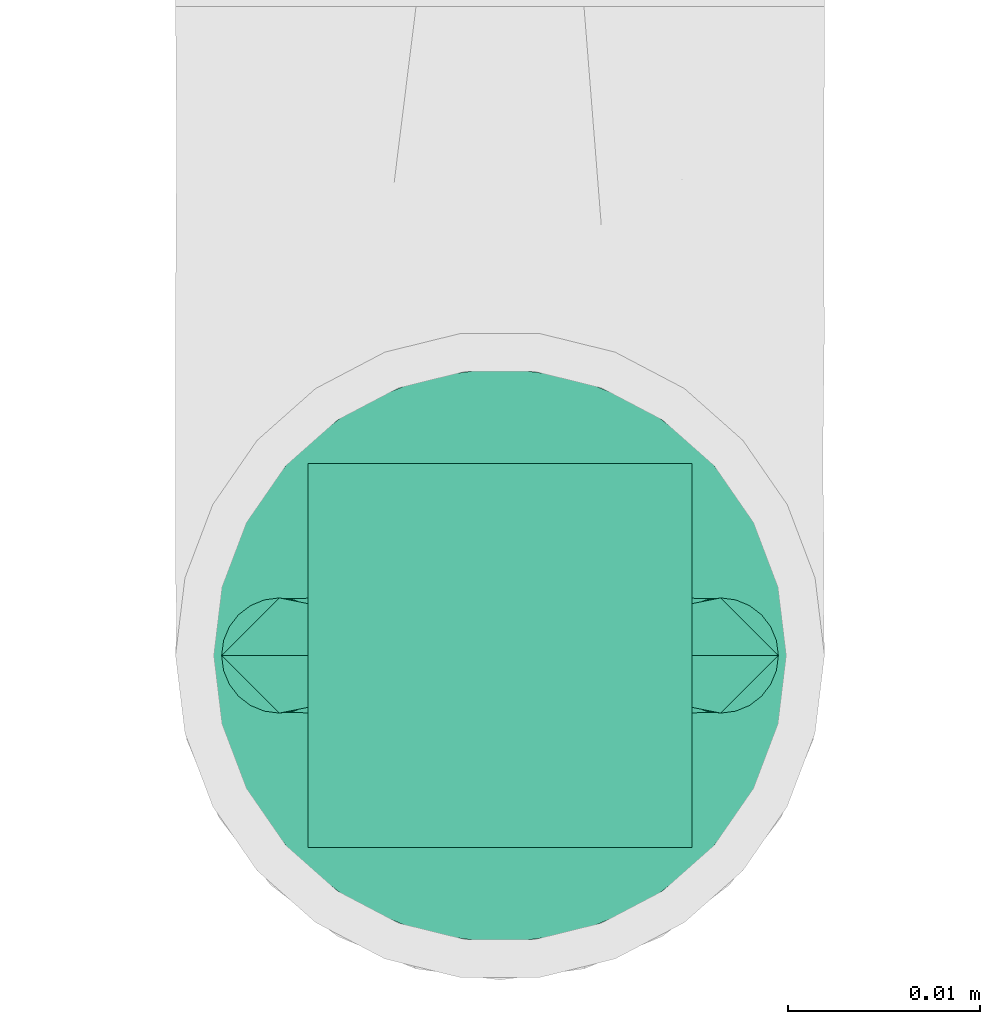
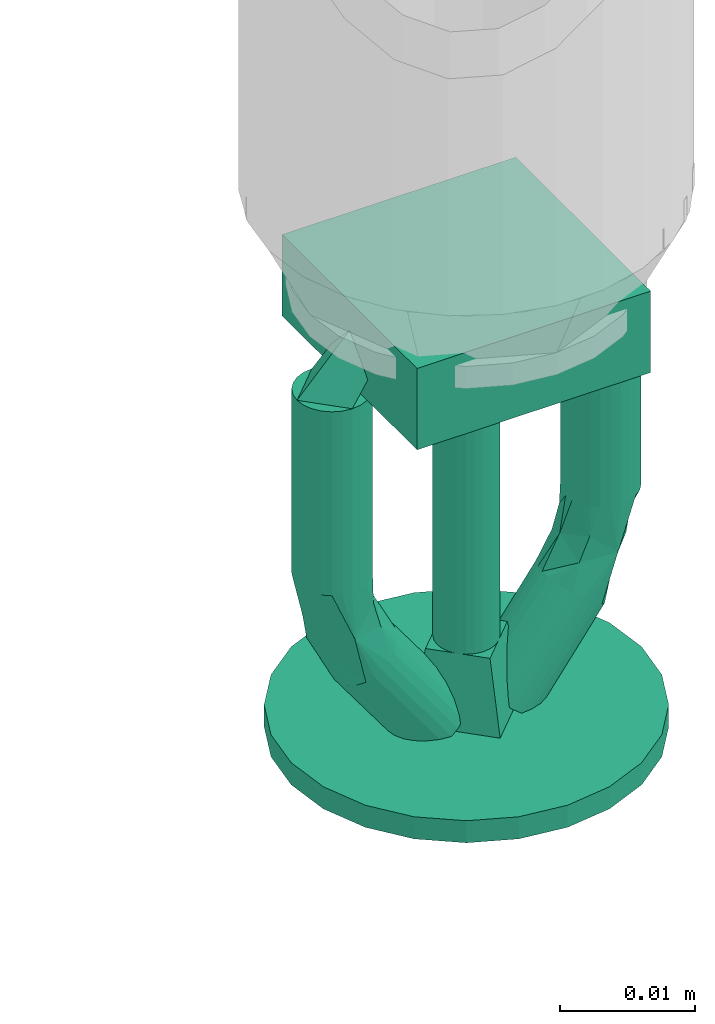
# One storey, part 16 of 43: 1 flow terminal.
"""IFC2X3 building model written with IfcOpenShell, lengths in millimetres."""

from ifc_helpers import new_model, entity, si_unit, converted_unit, derived_unit, direction, frame, origin_with_axes, place, context, subcontext, project, spatial, open_shell, surface_model, source, transform, mapped, type_object, element, save


model = new_model("IFC2X3")

# Units and contexts
model_context = context("Model", 3, precision=0.01, world=frame((0.0, 4.29681676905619e-09, 0.0)), true_north=direction((4.01073788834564e-13, 1.0)))
plan_context = context("Plan", 3, precision=0.01, world=frame((0.0, 4.29681676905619e-09, 0.0)), true_north=direction((4.01073788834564e-13, 1.0)))
body_context = subcontext(model_context, "Body", "Model", "MODEL_VIEW")
ifc_project = project(units=[converted_unit("PLANEANGLEUNIT", "DEGREE", entity("IfcPositiveLengthMeasure", 0.0174532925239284), si_unit("PLANEANGLEUNIT", "RADIAN"), dimensions=[0, 0, 0, 0, 0, 0, 0]), si_unit("AREAUNIT", "SQUARE_METRE"), si_unit("LENGTHUNIT", "METRE", prefix="MILLI"), si_unit("MASSUNIT", "GRAM", prefix="KILO"), si_unit("POWERUNIT", "WATT"), si_unit("PRESSUREUNIT", "PASCAL"), si_unit("FORCEUNIT", "NEWTON", prefix="KILO"), si_unit("ELECTRICVOLTAGEUNIT", "VOLT"), si_unit("ELECTRICCURRENTUNIT", "AMPERE"), si_unit("THERMODYNAMICTEMPERATUREUNIT", "DEGREE_CELSIUS"), si_unit("TIMEUNIT", "SECOND"), si_unit("VOLUMEUNIT", "CUBIC_METRE"), derived_unit("LINEARVELOCITYUNIT", [(si_unit("LENGTHUNIT", "METRE"), 1), (si_unit("TIMEUNIT", "SECOND"), -1)]), derived_unit("VOLUMETRICFLOWRATEUNIT", [(si_unit("VOLUMEUNIT", "CUBIC_METRE"), 1), (si_unit("TIMEUNIT", "SECOND"), -1)]), derived_unit("THERMALTRANSMITTANCEUNIT", [(si_unit("POWERUNIT", "WATT"), 1), (si_unit("THERMODYNAMICTEMPERATUREUNIT", "KELVIN"), -1), (si_unit("AREAUNIT", "SQUARE_METRE"), -1)]), derived_unit("SOUNDPRESSUREUNIT", [(si_unit("PRESSUREUNIT", "PASCAL"), 1)])], contexts=[model_context, plan_context])

# Site, building, storey
site_placement = place(None, frame((0.0, -4.29681676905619e-09, 0.0), z_axis=(0.0, 0.0, 1.0), x_axis=(1.0, 0.0, 0.0)))
site = spatial("IfcSite", under=ifc_project, at=site_placement, CompositionType="ELEMENT")
building_placement = place(site_placement, frame((0.0, 4.29681676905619e-09, 0.0), z_axis=(0.0, 0.0, 1.0), x_axis=(1.0, 0.0, 0.0)))
building = spatial("IfcBuilding", under=site, at=building_placement, Name="mc-building", CompositionType="ELEMENT")
storey_placement = place(building_placement, frame((0.0, 0.0, 210900.0), z_axis=(0.0, 0.0, 1.0), x_axis=(1.0, 0.0, 0.0)))
storey = spatial("IfcBuildingStorey", under=building, at=storey_placement, Name="Nivå F", CompositionType="ELEMENT", Elevation=210900.0)

# Flow terminal
fire_suppression_terminal_type = type_object("IfcFireSuppressionTerminalType", Name="BLP-K115-141C-STD", PredefinedType="NOTDEFINED")
shared_shape = source(origin_with_axes(), body_context, "Body", "SurfaceModel", [
    surface_model("IfcShellBasedSurfaceModel", [(10.0, 10.0, 7.36842), (-10.0, 10.0, 7.36842), (-10.0, -10.0, 7.36842), (10.0, -10.0, 7.36842), (10.0, -10.0, 0.0), (-10.0, -10.0, 0.0), (-10.0, 10.0, 0.0), (10.0, 10.0, 0.0), (3.88229, -14.48889, 42.0), (-3.88229, -14.48889, 42.0), (0.0, -15.0, 42.0), (14.48889, -3.88229, 42.0), (7.5, -12.99038, 42.0), (12.99038, -7.5, 42.0), (10.6066, -10.6066, 42.0), (-10.6066, -10.6066, 42.0), (-7.5, -12.99038, 42.0), (-14.48889, -3.88229, 42.0), (-12.99038, -7.5, 42.0), (-12.99038, 7.5, 42.0), (-15.0, 0.0, 42.0), (14.48889, 3.88229, 42.0), (3.88229, 14.48889, 42.0), (12.99038, 7.5, 42.0), (10.6066, 10.6066, 42.0), (7.5, 12.99038, 42.0), (-7.5, 12.99038, 42.0), (-10.6066, 10.6066, 42.0), (-14.48889, 3.88229, 42.0), (0.0, 15.0, 42.0), (-3.88229, 14.48889, 42.0), (15.0, 0.0, 42.0), (10.6066, 10.6066, 40.0), (0.0, 15.0, 40.0), (3.88229, 14.48889, 40.0), (7.5, 12.99038, 40.0), (12.99038, 7.5, 40.0), (14.48889, 3.88229, 40.0), (-15.0, 0.0, 40.0), (-7.5, 12.99038, 40.0), (-12.99038, 7.5, 40.0), (-10.6066, 10.6066, 40.0), (-3.88229, 14.48889, 40.0), (-14.48889, 3.88229, 40.0), (15.0, 0.0, 40.0), (14.48889, -3.88229, 40.0), (-3.88229, -14.48889, 40.0), (3.88229, -14.48889, 40.0), (12.99038, -7.5, 40.0), (7.5, -12.99038, 40.0), (10.6066, -10.6066, 40.0), (-14.48889, -3.88229, 40.0), (-10.6066, -10.6066, 40.0), (-12.99038, -7.5, 40.0), (-7.5, -12.99038, 40.0), (0.0, -15.0, 40.0), (0.0, -2.5, 33.68421), (0.64705, -2.41481, 33.68421), (1.25, -2.16506, 33.68421), (-1.25, -2.16506, 33.68421), (2.16506, -1.25, 33.68421), (1.76777, -1.76777, 33.68421), (-1.25, 2.16506, 33.68421), (-2.16506, -1.25, 33.68421), (-1.76777, -1.76777, 33.68421), (-0.64705, -2.41481, 33.68421), (-2.41481, -0.64705, 33.68421), (-2.5, 0.0, 33.68421), (-2.41481, 0.64705, 33.68421), (2.41481, -0.64705, 33.68421), (1.25, 2.16506, 33.68421), (2.5, 0.0, 33.68421), (2.41481, 0.64705, 33.68421), (1.76777, 1.76777, 33.68421), (2.16506, 1.25, 33.68421), (0.64705, 2.41481, 33.68421), (-1.76777, 1.76777, 33.68421), (-2.16506, 1.25, 33.68421), (0.0, 2.5, 33.68421), (-0.64705, 2.41481, 33.68421), (0.0, 2.5, 7.36842), (0.64705, 2.41481, 7.36842), (1.25, 2.16506, 7.36842), (-1.25, 2.16506, 7.36842), (1.76777, 1.76777, 7.36842), (2.16506, 1.25, 7.36842), (2.41481, 0.64705, 7.36842), (-2.41481, 0.64705, 7.36842), (-1.76777, 1.76777, 7.36842), (-0.64705, 2.41481, 7.36842), (-2.16506, 1.25, 7.36842), (-2.5, 0.0, 7.36842), (2.5, 0.0, 7.36842), (2.41481, -0.64705, 7.36842), (2.16506, -1.25, 7.36842), (-1.25, -2.16506, 7.36842), (1.25, -2.16506, 7.36842), (1.76777, -1.76777, 7.36842), (0.0, -2.5, 7.36842), (0.64705, -2.41481, 7.36842), (-2.16506, -1.25, 7.36842), (-1.76777, -1.76777, 7.36842), (-2.41481, -0.64705, 7.36842), (-0.64705, -2.41481, 7.36842), (0.0, -5.0, 40.0), (5.0, 0.0, 40.0), (-5.0, 0.0, 40.0), (0.0, 5.0, 40.0), (3.5, 0.0, 33.68421), (0.0, -3.5, 33.68421), (0.0, 3.5, 33.68421), (-3.5, 0.0, 33.68421), (13.0, -2.59808, 7.36842), (12.27646, -2.89778, 7.36842), (11.5, -3.0, 7.36842), (10.72354, -2.89778, 7.36842), (14.09808, -1.5, 7.36842), (13.62132, -2.12132, 7.36842), (14.39778, -0.77646, 7.36842), (10.0, -2.59808, 7.36842), (9.37868, -2.12132, 7.36842), (8.60222, -0.77646, 7.36842), (8.90192, -1.5, 7.36842), (8.5, 0.0, 7.36842), (8.60222, 0.77646, 7.36842), (14.5, 0.0, 7.36842), (14.09808, 1.5, 7.36842), (14.39778, 0.77646, 7.36842), (13.0, 2.59808, 7.36842), (13.62132, 2.12132, 7.36842), (12.27646, 2.89778, 7.36842), (8.90192, 1.5, 7.36842), (9.37868, 2.12132, 7.36842), (10.0, 2.59808, 7.36842), (10.72354, 2.89778, 7.36842), (11.5, 3.0, 7.36842), (8.60222, 0.77646, 21.40351), (8.5, 0.0, 21.40351), (8.90192, 1.5, 21.40351), (9.37868, 2.12132, 21.40351), (10.0, 2.59808, 21.40351), (10.72354, 2.89778, 21.40351), (11.5, 3.0, 21.40351), (13.0, 2.59808, 21.40351), (12.27646, 2.89778, 21.40351), (13.62132, 2.12132, 21.40351), (14.09808, 1.5, 21.40351), (14.39778, 0.77646, 21.40351), (14.5, 0.0, 21.40351), (14.39778, -0.77646, 21.40351), (14.09808, -1.5, 21.40351), (13.62132, -2.12132, 21.40351), (13.0, -2.59808, 21.40351), (12.27646, -2.89778, 21.40351), (11.5, -3.0, 21.40351), (10.0, -2.59808, 21.40351), (10.72354, -2.89778, 21.40351), (9.37868, -2.12132, 21.40351), (8.90192, -1.5, 21.40351), (8.60222, -0.77646, 21.40351), (8.60222, 0.77646, 24.01797), (8.5, 0.0, 24.01797), (8.90192, 1.5, 24.01797), (9.37868, 2.12132, 24.01797), (10.0, 2.59808, 24.01797), (10.72354, 2.89778, 24.01797), (11.5, 3.0, 24.01797), (13.0, 2.59808, 24.01797), (12.27646, 2.89778, 24.01797), (13.62132, 2.12132, 24.01797), (14.09808, 1.5, 24.01797), (14.39778, 0.77646, 24.01797), (14.5, 0.0, 24.01797), (14.39778, -0.77646, 24.01797), (14.09808, -1.5, 24.01797), (13.62132, -2.12132, 24.01797), (13.0, -2.59808, 24.01797), (12.27646, -2.89778, 24.01797), (11.5, -3.0, 24.01797), (10.0, -2.59808, 24.01797), (10.72354, -2.89778, 24.01797), (9.37868, -2.12132, 24.01797), (8.90192, -1.5, 24.01797), (8.60222, -0.77646, 24.01797), (14.03116, 0.0, 26.95469), (8.89443, 3.0, 31.97044), (11.26864, 2.96638, 28.30794), (8.26852, 2.89778, 31.51096), (13.68288, 0.0, 29.13626), (9.23197, 2.26965, 26.65145), (7.98113, 0.0, 27.26812), (8.39468, 2.17743, 28.77318), (6.47609, 0.0, 30.19515), (6.55849, 0.77646, 30.25565), (6.80009, 1.5, 30.433), (7.1844, 2.12132, 30.71512), (11.23037, 0.77646, 33.68523), (11.31277, 0.0, 33.74572), (12.67267, 0.0, 31.10095), (7.68526, 2.59808, 31.0828), (9.52034, 2.89778, 32.42991), (10.1036, 2.59808, 32.85808), (10.60445, 2.12132, 33.22575), (10.98877, 1.5, 33.50787), (11.26864, -2.96638, 28.30794), (9.20533, -2.17689, 26.29582), (8.63781, -2.27879, 28.50134), (10.1036, -2.59808, 32.85808), (9.52034, -2.89778, 32.42991), (8.89443, -3.0, 31.97044), (10.98877, -1.5, 33.50787), (10.60445, -2.12132, 33.22575), (11.23037, -0.77646, 33.68523), (6.55849, -0.77646, 30.25565), (8.26852, -2.89778, 31.51096), (7.68526, -2.59808, 31.0828), (7.1844, -2.12132, 30.71512), (6.80009, -1.5, 30.433), (3.0, -3.0, 40.0), (3.62591, -2.89778, 40.45948), (4.20917, -2.59808, 40.88764), (5.09434, -1.5, 41.53744), (1.28997, -2.12132, 38.74469), (4.71003, -2.12132, 41.25532), (1.79083, 2.59808, 39.11236), (0.90566, -1.5, 38.46256), (1.79083, -2.59808, 39.11236), (2.37409, -2.89778, 39.54052), (0.58166, 0.0, 38.22472), (0.66406, -0.77646, 38.28521), (1.28997, 2.12132, 38.74469), (5.33594, -0.77646, 41.71479), (4.71003, 2.12132, 41.25532), (5.33594, 0.77646, 41.71479), (5.09434, 1.5, 41.53744), (4.20917, 2.59808, 40.88764), (3.62591, 2.89778, 40.45948), (3.0, 3.0, 40.0), (0.66406, 0.77646, 38.28521), (0.90566, 1.5, 38.46256), (2.37409, 2.89778, 39.54052), (5.41834, 0.0, 41.77528), (-10.0, -2.59808, 7.36842), (-10.72354, -2.89778, 7.36842), (-11.5, -3.0, 7.36842), (-12.27646, -2.89778, 7.36842), (-8.60222, -0.77646, 7.36842), (-8.90192, -1.5, 7.36842), (-9.37868, -2.12132, 7.36842), (-13.0, -2.59808, 7.36842), (-13.62132, -2.12132, 7.36842), (-14.39778, -0.77646, 7.36842), (-14.09808, -1.5, 7.36842), (-14.5, 0.0, 7.36842), (-10.0, 2.59808, 7.36842), (-8.90192, 1.5, 7.36842), (-8.60222, 0.77646, 7.36842), (-14.39778, 0.77646, 7.36842), (-9.37868, 2.12132, 7.36842), (-10.72354, 2.89778, 7.36842), (-14.09808, 1.5, 7.36842), (-13.62132, 2.12132, 7.36842), (-13.0, 2.59808, 7.36842), (-12.27646, 2.89778, 7.36842), (-11.5, 3.0, 7.36842), (-8.5, 0.0, 7.36842), (-14.39778, 0.77646, 21.40351), (-14.5, 0.0, 21.40351), (-14.09808, 1.5, 21.40351), (-13.62132, 2.12132, 21.40351), (-13.0, 2.59808, 21.40351), (-12.27646, 2.89778, 21.40351), (-11.5, 3.0, 21.40351), (-10.0, 2.59808, 21.40351), (-10.72354, 2.89778, 21.40351), (-9.37868, 2.12132, 21.40351), (-8.90192, 1.5, 21.40351), (-8.60222, 0.77646, 21.40351), (-8.5, 0.0, 21.40351), (-8.60222, -0.77646, 21.40351), (-8.90192, -1.5, 21.40351), (-9.37868, -2.12132, 21.40351), (-10.0, -2.59808, 21.40351), (-10.72354, -2.89778, 21.40351), (-11.5, -3.0, 21.40351), (-13.0, -2.59808, 21.40351), (-12.27646, -2.89778, 21.40351), (-13.62132, -2.12132, 21.40351), (-14.09808, -1.5, 21.40351), (-14.39778, -0.77646, 21.40351), (-14.39778, 0.77646, 24.01797), (-14.5, 0.0, 24.01797), (-14.09808, 1.5, 24.01797), (-13.62132, 2.12132, 24.01797), (-13.0, 2.59808, 24.01797), (-12.27646, 2.89778, 24.01797), (-11.5, 3.0, 24.01797), (-10.0, 2.59808, 24.01797), (-10.72354, 2.89778, 24.01797), (-9.37868, 2.12132, 24.01797), (-8.90192, 1.5, 24.01797), (-8.60222, 0.77646, 24.01797), (-8.5, 0.0, 24.01797), (-8.60222, -0.77646, 24.01797), (-8.90192, -1.5, 24.01797), (-9.37868, -2.12132, 24.01797), (-10.0, -2.59808, 24.01797), (-10.72354, -2.89778, 24.01797), (-11.5, -3.0, 24.01797), (-13.0, -2.59808, 24.01797), (-12.27646, -2.89778, 24.01797), (-13.62132, -2.12132, 24.01797), (-14.09808, -1.5, 24.01797), (-14.39778, -0.77646, 24.01797), (-14.03116, 0.0, 26.95469), (-11.26864, 2.96638, 28.30794), (-9.20533, 2.17689, 26.29582), (-7.98113, 0.0, 27.26812), (-13.68288, 0.0, 29.13626), (-12.67267, 0.0, 31.10095), (-8.63781, 2.27879, 28.50134), (-10.1036, 2.59808, 32.85808), (-9.52034, 2.89778, 32.42991), (-8.89443, 3.0, 31.97044), (-10.98877, 1.5, 33.50787), (-10.60445, 2.12132, 33.22575), (-11.23037, 0.77646, 33.68523), (-11.31277, 0.0, 33.74572), (-6.55849, 0.77646, 30.25565), (-6.47609, 0.0, 30.19515), (-8.26852, 2.89778, 31.51096), (-7.68526, 2.59808, 31.0828), (-7.1844, 2.12132, 30.71512), (-6.80009, 1.5, 30.433), (-8.89443, -3.0, 31.97044), (-11.26864, -2.96638, 28.30794), (-8.26852, -2.89778, 31.51096), (-9.23197, -2.26965, 26.65145), (-8.39468, -2.17743, 28.77318), (-6.55849, -0.77646, 30.25565), (-6.80009, -1.5, 30.433), (-7.1844, -2.12132, 30.71512), (-11.23037, -0.77646, 33.68523), (-7.68526, -2.59808, 31.0828), (-9.52034, -2.89778, 32.42991), (-10.1036, -2.59808, 32.85808), (-10.60445, -2.12132, 33.22575), (-10.98877, -1.5, 33.50787), (-3.62591, -2.89778, 40.45948), (-3.0, -3.0, 40.0), (-2.37409, -2.89778, 39.54052), (-1.79083, -2.59808, 39.11236), (-1.28997, -2.12132, 38.74469), (-0.90566, -1.5, 38.46256), (-0.66406, -0.77646, 38.28521), (-4.71003, -2.12132, 41.25532), (-4.20917, -2.59808, 40.88764), (-5.09434, -1.5, 41.53744), (-5.41834, 0.0, 41.77528), (-5.33594, -0.77646, 41.71479), (-4.20917, 2.59808, 40.88764), (-5.33594, 0.77646, 41.71479), (-0.58166, 0.0, 38.22472), (-0.66406, 0.77646, 38.28521), (-0.90566, 1.5, 38.46256), (-1.28997, 2.12132, 38.74469), (-1.79083, 2.59808, 39.11236), (-2.37409, 2.89778, 39.54052), (-3.0, 3.0, 40.0), (-4.71003, 2.12132, 41.25532), (-5.09434, 1.5, 41.53744), (-3.62591, 2.89778, 40.45948), (-6.5, 2.0, 1.0), (-4.5, 0.0, 1.0), (-6.5, -2.0, 1.0), (-8.5, 0.0, 1.0), (-7.5, 1.0, 1.0), (-13.0, 1.5, 7.36842), (-10.16667, 1.66667, 7.36842), (-5.5, 1.0, 1.0), (-5.5, -1.0, 1.0), (-10.0, -1.5, 7.36842), (-12.83333, -1.66667, 7.36842), (-7.5, -1.0, 1.0), (4.5, 0.0, 1.0), (6.5, 2.0, 1.0), (8.5, 0.0, 1.0), (6.5, -2.0, 1.0), (5.5, -1.0, 1.0), (12.83333, -1.66667, 7.36842), (10.16667, -1.66667, 7.36842), (7.5, -1.0, 1.0), (7.5, 1.0, 1.0), (10.16667, 1.66667, 7.36842), (12.83333, 1.66667, 7.36842), (5.5, 1.0, 1.0)], [open_shell([[[0, 1, 2]], [[2, 3, 0]], [[4, 5, 6]], [[6, 7, 4]], [[2, 1, 6]], [[6, 5, 2]], [[3, 2, 5]], [[5, 4, 3]], [[0, 3, 4]], [[4, 7, 0]], [[1, 0, 7]], [[7, 6, 1]], [[8, 9, 10]], [[11, 8, 12]], [[13, 11, 12]], [[13, 12, 14]], [[9, 8, 11]], [[9, 15, 16]], [[15, 9, 17]], [[15, 17, 18]], [[9, 11, 17]], [[17, 19, 20]], [[17, 11, 19]], [[19, 11, 21]], [[22, 21, 23]], [[24, 25, 22]], [[24, 22, 23]], [[19, 21, 22]], [[19, 26, 27]], [[28, 20, 19]], [[26, 29, 30]], [[29, 26, 19]], [[22, 29, 19]], [[11, 31, 21]], [[32, 33, 34]], [[32, 34, 35]], [[32, 36, 37]], [[33, 32, 38]], [[38, 32, 37]], [[39, 40, 41]], [[39, 42, 33]], [[40, 38, 43]], [[39, 33, 40]], [[33, 38, 40]], [[37, 44, 38]], [[45, 46, 44]], [[47, 45, 48]], [[49, 47, 48]], [[49, 48, 50]], [[46, 45, 47]], [[51, 52, 53]], [[52, 51, 46]], [[52, 46, 54]], [[51, 44, 46]], [[47, 55, 46]], [[44, 51, 38]], [[51, 17, 38]], [[53, 18, 51]], [[16, 52, 54]], [[53, 52, 15]], [[9, 54, 46]], [[51, 18, 17]], [[17, 20, 38]], [[9, 16, 54]], [[15, 52, 16]], [[15, 18, 53]], [[10, 9, 46]], [[46, 55, 10]], [[47, 8, 55]], [[49, 12, 47]], [[13, 50, 48]], [[49, 50, 14]], [[11, 48, 45]], [[49, 14, 12]], [[12, 8, 47]], [[31, 11, 45]], [[13, 48, 11]], [[13, 14, 50]], [[44, 31, 45]], [[55, 8, 10]], [[37, 21, 44]], [[36, 23, 37]], [[25, 32, 35]], [[36, 32, 24]], [[22, 35, 34]], [[37, 23, 21]], [[21, 31, 44]], [[22, 25, 35]], [[24, 32, 25]], [[24, 23, 36]], [[29, 22, 34]], [[34, 33, 29]], [[42, 30, 33]], [[39, 26, 42]], [[19, 41, 40]], [[39, 41, 27]], [[28, 40, 43]], [[39, 27, 26]], [[26, 30, 42]], [[20, 28, 43]], [[19, 40, 28]], [[19, 27, 41]], [[38, 20, 43]], [[33, 30, 29]], [[56, 57, 58]], [[59, 56, 58]], [[58, 60, 59]], [[60, 58, 61]], [[60, 62, 59]], [[59, 63, 64]], [[59, 65, 56]], [[59, 66, 63]], [[66, 59, 67]], [[59, 68, 67]], [[62, 60, 69]], [[70, 71, 72]], [[73, 72, 74]], [[62, 69, 70]], [[70, 72, 73]], [[62, 70, 75]], [[68, 76, 77]], [[76, 68, 62]], [[62, 78, 79]], [[68, 59, 62]], [[75, 78, 62]], [[70, 69, 71]], [[80, 81, 82]], [[83, 80, 82]], [[84, 85, 86]], [[83, 82, 84]], [[83, 84, 86]], [[83, 87, 88]], [[83, 89, 80]], [[88, 87, 90]], [[87, 83, 91]], [[86, 91, 83]], [[86, 92, 91]], [[92, 93, 94]], [[95, 92, 94]], [[95, 94, 96]], [[96, 94, 97]], [[98, 96, 99]], [[100, 95, 101]], [[95, 100, 102]], [[95, 98, 103]], [[102, 91, 95]], [[96, 98, 95]], [[95, 91, 92]], [[102, 66, 91]], [[100, 63, 102]], [[59, 101, 95]], [[100, 101, 64]], [[65, 95, 103]], [[102, 63, 66]], [[66, 67, 91]], [[65, 59, 95]], [[64, 101, 59]], [[64, 63, 100]], [[56, 65, 103]], [[103, 98, 56]], [[99, 57, 98]], [[96, 58, 99]], [[60, 97, 94]], [[96, 97, 61]], [[69, 94, 93]], [[96, 61, 58]], [[58, 57, 99]], [[71, 69, 93]], [[60, 94, 69]], [[60, 61, 97]], [[92, 71, 93]], [[98, 57, 56]], [[86, 72, 92]], [[85, 74, 86]], [[70, 84, 82]], [[85, 84, 73]], [[75, 82, 81]], [[86, 74, 72]], [[72, 71, 92]], [[75, 70, 82]], [[73, 84, 70]], [[73, 74, 85]], [[78, 75, 81]], [[81, 80, 78]], [[89, 79, 80]], [[83, 62, 89]], [[77, 88, 90]], [[83, 88, 76]], [[68, 90, 87]], [[83, 76, 62]], [[62, 79, 89]], [[67, 68, 87]], [[77, 90, 68]], [[77, 76, 88]], [[91, 67, 87]], [[80, 79, 78]], [[104, 105, 106]], [[107, 106, 105]], [[108, 109, 110]], [[111, 110, 109]], [[106, 111, 104]], [[104, 111, 109]], [[109, 108, 105]], [[109, 105, 104]], [[105, 108, 107]], [[107, 108, 110]], [[110, 111, 106]], [[110, 106, 107]], [[112, 113, 114]], [[112, 114, 115]], [[116, 112, 115]], [[117, 112, 116]], [[118, 116, 119]], [[120, 121, 119]], [[116, 115, 119]], [[122, 121, 120]], [[121, 118, 119]], [[121, 123, 124]], [[125, 118, 121]], [[126, 127, 125]], [[126, 125, 124]], [[124, 128, 126]], [[129, 126, 128]], [[128, 124, 130]], [[131, 132, 124]], [[133, 124, 132]], [[134, 135, 133]], [[124, 133, 135]], [[135, 130, 124]], [[121, 124, 125]], [[136, 123, 137]], [[138, 124, 136]], [[132, 139, 140]], [[138, 139, 131]], [[133, 140, 141]], [[138, 131, 124]], [[124, 123, 136]], [[134, 142, 135]], [[134, 133, 141]], [[132, 140, 133]], [[132, 131, 139]], [[142, 134, 141]], [[143, 130, 144]], [[145, 128, 143]], [[126, 146, 147]], [[145, 146, 129]], [[127, 147, 148]], [[143, 128, 130]], [[130, 135, 144]], [[127, 126, 147]], [[129, 146, 126]], [[129, 128, 145]], [[125, 127, 148]], [[144, 135, 142]], [[149, 125, 148]], [[150, 118, 149]], [[117, 151, 152]], [[150, 151, 116]], [[112, 152, 153]], [[150, 116, 118]], [[118, 125, 149]], [[113, 154, 114]], [[113, 112, 153]], [[117, 152, 112]], [[117, 116, 151]], [[154, 113, 153]], [[155, 115, 156]], [[157, 119, 155]], [[122, 158, 159]], [[157, 158, 120]], [[121, 159, 137]], [[155, 119, 115]], [[115, 114, 156]], [[121, 122, 159]], [[120, 158, 122]], [[120, 119, 157]], [[123, 121, 137]], [[156, 114, 154]], [[160, 137, 161]], [[162, 136, 160]], [[139, 163, 164]], [[162, 163, 138]], [[140, 164, 165]], [[162, 138, 136]], [[136, 137, 160]], [[141, 166, 142]], [[141, 140, 165]], [[139, 164, 140]], [[139, 138, 163]], [[166, 141, 165]], [[167, 144, 168]], [[169, 143, 167]], [[146, 170, 171]], [[169, 170, 145]], [[147, 171, 172]], [[167, 143, 144]], [[144, 142, 168]], [[147, 146, 171]], [[145, 170, 146]], [[145, 143, 169]], [[148, 147, 172]], [[168, 142, 166]], [[173, 148, 172]], [[174, 149, 173]], [[151, 175, 176]], [[174, 175, 150]], [[152, 176, 177]], [[174, 150, 149]], [[149, 148, 173]], [[153, 178, 154]], [[153, 152, 177]], [[151, 176, 152]], [[151, 150, 175]], [[178, 153, 177]], [[179, 156, 180]], [[181, 155, 179]], [[158, 182, 183]], [[181, 182, 157]], [[159, 183, 161]], [[179, 155, 156]], [[156, 154, 180]], [[159, 158, 183]], [[157, 182, 158]], [[157, 155, 181]], [[137, 159, 161]], [[180, 154, 178]], [[170, 184, 171]], [[185, 186, 187]], [[188, 184, 186]], [[165, 186, 166]], [[189, 160, 190]], [[163, 162, 189]], [[190, 191, 189]], [[160, 189, 162]], [[189, 186, 165]], [[164, 163, 189]], [[184, 172, 171]], [[170, 169, 184]], [[184, 167, 186]], [[184, 169, 167]], [[168, 186, 167]], [[166, 186, 168]], [[160, 161, 190]], [[192, 193, 191]], [[193, 194, 191]], [[195, 191, 194]], [[191, 190, 192]], [[191, 187, 186]], [[196, 197, 198]], [[191, 199, 187]], [[200, 186, 185]], [[189, 165, 164]], [[191, 195, 199]], [[201, 202, 198]], [[200, 201, 186]], [[198, 203, 196]], [[198, 188, 186]], [[198, 202, 203]], [[201, 198, 186]], [[189, 191, 186]], [[174, 184, 175]], [[176, 175, 184]], [[204, 176, 184]], [[178, 177, 204]], [[204, 177, 176]], [[173, 184, 174]], [[205, 190, 161]], [[188, 198, 204]], [[205, 204, 206]], [[205, 179, 180]], [[205, 181, 179]], [[182, 205, 183]], [[161, 183, 205]], [[181, 205, 182]], [[180, 204, 205]], [[173, 172, 184]], [[188, 204, 184]], [[204, 198, 207]], [[207, 208, 204]], [[190, 205, 206]], [[208, 209, 204]], [[198, 210, 211]], [[198, 211, 207]], [[212, 198, 197]], [[213, 192, 190]], [[213, 190, 206]], [[210, 198, 212]], [[214, 204, 209]], [[214, 215, 206]], [[206, 216, 217]], [[206, 204, 214]], [[216, 206, 215]], [[213, 206, 217]], [[178, 204, 180]], [[218, 219, 220]], [[218, 220, 221]], [[218, 221, 222]], [[221, 220, 223]], [[221, 224, 225]], [[218, 226, 227]], [[218, 222, 226]], [[225, 228, 229]], [[222, 221, 225]], [[225, 230, 228]], [[221, 231, 232]], [[231, 233, 232]], [[232, 233, 234]], [[232, 235, 236]], [[232, 224, 221]], [[237, 232, 236]], [[238, 230, 239]], [[238, 228, 230]], [[232, 240, 224]], [[225, 224, 230]], [[237, 240, 232]], [[241, 233, 231]], [[238, 192, 228]], [[239, 193, 238]], [[195, 230, 224]], [[239, 230, 194]], [[199, 224, 240]], [[239, 194, 193]], [[193, 192, 238]], [[187, 237, 185]], [[187, 199, 240]], [[195, 224, 199]], [[195, 194, 230]], [[237, 187, 240]], [[235, 200, 236]], [[232, 201, 235]], [[203, 234, 233]], [[232, 234, 202]], [[196, 233, 241]], [[235, 201, 200]], [[200, 185, 236]], [[196, 203, 233]], [[202, 234, 203]], [[202, 201, 232]], [[197, 196, 241]], [[236, 185, 237]], [[231, 197, 241]], [[221, 212, 231]], [[211, 223, 220]], [[221, 223, 210]], [[207, 220, 219]], [[221, 210, 212]], [[212, 197, 231]], [[208, 218, 209]], [[208, 207, 219]], [[211, 220, 207]], [[211, 210, 223]], [[218, 208, 219]], [[226, 214, 227]], [[222, 215, 226]], [[217, 225, 229]], [[222, 225, 216]], [[213, 229, 228]], [[226, 215, 214]], [[214, 209, 227]], [[213, 217, 229]], [[216, 225, 217]], [[216, 215, 222]], [[192, 213, 228]], [[227, 209, 218]], [[242, 243, 244]], [[242, 244, 245]], [[246, 247, 248]], [[242, 246, 248]], [[246, 242, 249]], [[250, 251, 249]], [[242, 245, 249]], [[252, 251, 250]], [[249, 251, 246]], [[253, 254, 251]], [[254, 246, 251]], [[246, 255, 256]], [[246, 254, 255]], [[257, 254, 253]], [[258, 255, 254]], [[259, 254, 257]], [[260, 261, 257]], [[262, 257, 261]], [[263, 264, 262]], [[257, 262, 264]], [[264, 259, 257]], [[256, 265, 246]], [[266, 253, 267]], [[268, 257, 266]], [[261, 269, 270]], [[268, 269, 260]], [[262, 270, 271]], [[268, 260, 257]], [[257, 253, 266]], [[263, 272, 264]], [[263, 262, 271]], [[261, 270, 262]], [[261, 260, 269]], [[272, 263, 271]], [[273, 259, 274]], [[275, 254, 273]], [[255, 276, 277]], [[275, 276, 258]], [[256, 277, 278]], [[273, 254, 259]], [[259, 264, 274]], [[256, 255, 277]], [[258, 276, 255]], [[258, 254, 275]], [[265, 256, 278]], [[274, 264, 272]], [[279, 265, 278]], [[280, 246, 279]], [[248, 281, 282]], [[280, 281, 247]], [[242, 282, 283]], [[280, 247, 246]], [[246, 265, 279]], [[243, 284, 244]], [[243, 242, 283]], [[248, 282, 242]], [[248, 247, 281]], [[284, 243, 283]], [[285, 245, 286]], [[287, 249, 285]], [[252, 288, 289]], [[287, 288, 250]], [[251, 289, 267]], [[285, 249, 245]], [[245, 244, 286]], [[251, 252, 289]], [[250, 288, 252]], [[250, 249, 287]], [[253, 251, 267]], [[286, 244, 284]], [[290, 267, 291]], [[292, 266, 290]], [[269, 293, 294]], [[292, 293, 268]], [[270, 294, 295]], [[292, 268, 266]], [[266, 267, 290]], [[271, 296, 272]], [[271, 270, 295]], [[269, 294, 270]], [[269, 268, 293]], [[296, 271, 295]], [[297, 274, 298]], [[299, 273, 297]], [[276, 300, 301]], [[299, 300, 275]], [[277, 301, 302]], [[297, 273, 274]], [[274, 272, 298]], [[277, 276, 301]], [[275, 300, 276]], [[275, 273, 299]], [[278, 277, 302]], [[298, 272, 296]], [[303, 278, 302]], [[304, 279, 303]], [[281, 305, 306]], [[304, 305, 280]], [[282, 306, 307]], [[304, 280, 279]], [[279, 278, 303]], [[283, 308, 284]], [[283, 282, 307]], [[281, 306, 282]], [[281, 280, 305]], [[308, 283, 307]], [[309, 286, 310]], [[311, 285, 309]], [[288, 312, 313]], [[311, 312, 287]], [[289, 313, 291]], [[309, 285, 286]], [[286, 284, 310]], [[289, 288, 313]], [[287, 312, 288]], [[287, 285, 311]], [[267, 289, 291]], [[310, 284, 308]], [[292, 314, 293]], [[294, 293, 314]], [[315, 294, 314]], [[296, 295, 315]], [[315, 295, 294]], [[290, 314, 292]], [[316, 317, 302]], [[318, 319, 315]], [[316, 315, 320]], [[316, 297, 298]], [[316, 299, 297]], [[300, 316, 301]], [[302, 301, 316]], [[299, 316, 300]], [[298, 315, 316]], [[290, 291, 314]], [[318, 315, 314]], [[315, 319, 321]], [[321, 322, 315]], [[317, 316, 320]], [[322, 323, 315]], [[319, 324, 325]], [[319, 325, 321]], [[326, 319, 327]], [[328, 329, 317]], [[328, 317, 320]], [[324, 319, 326]], [[330, 315, 323]], [[330, 331, 320]], [[320, 332, 333]], [[320, 315, 330]], [[332, 320, 331]], [[328, 320, 333]], [[296, 315, 298]], [[312, 314, 313]], [[334, 335, 336]], [[318, 314, 335]], [[307, 335, 308]], [[337, 303, 317]], [[305, 304, 337]], [[317, 338, 337]], [[303, 337, 304]], [[337, 335, 307]], [[306, 305, 337]], [[314, 291, 313]], [[312, 311, 314]], [[314, 309, 335]], [[314, 311, 309]], [[310, 335, 309]], [[308, 335, 310]], [[303, 302, 317]], [[329, 339, 338]], [[339, 340, 338]], [[341, 338, 340]], [[338, 317, 329]], [[338, 336, 335]], [[342, 327, 319]], [[338, 343, 336]], [[344, 335, 334]], [[337, 307, 306]], [[338, 341, 343]], [[345, 346, 319]], [[344, 345, 335]], [[319, 347, 342]], [[319, 318, 335]], [[319, 346, 347]], [[345, 319, 335]], [[337, 338, 335]], [[348, 349, 350]], [[351, 348, 350]], [[352, 353, 354]], [[352, 354, 351]], [[348, 351, 354]], [[348, 355, 356]], [[355, 348, 357]], [[357, 358, 359]], [[360, 357, 348]], [[357, 361, 358]], [[360, 348, 354]], [[362, 363, 364]], [[364, 360, 354]], [[360, 365, 366]], [[364, 365, 360]], [[366, 367, 368]], [[361, 369, 370]], [[369, 361, 360]], [[360, 368, 371]], [[361, 357, 360]], [[366, 368, 360]], [[364, 354, 362]], [[361, 327, 358]], [[370, 326, 361]], [[325, 369, 360]], [[370, 369, 324]], [[321, 360, 371]], [[370, 324, 326]], [[326, 327, 361]], [[322, 368, 323]], [[322, 321, 371]], [[325, 360, 321]], [[325, 324, 369]], [[368, 322, 371]], [[366, 330, 367]], [[365, 331, 366]], [[333, 364, 363]], [[365, 364, 332]], [[328, 363, 362]], [[366, 331, 330]], [[330, 323, 367]], [[328, 333, 363]], [[332, 364, 333]], [[332, 331, 365]], [[329, 328, 362]], [[367, 323, 368]], [[354, 329, 362]], [[353, 339, 354]], [[341, 352, 351]], [[353, 352, 340]], [[343, 351, 350]], [[353, 340, 339]], [[339, 329, 354]], [[336, 349, 334]], [[336, 343, 350]], [[341, 351, 343]], [[341, 340, 352]], [[349, 336, 350]], [[356, 344, 348]], [[355, 345, 356]], [[347, 357, 359]], [[355, 357, 346]], [[342, 359, 358]], [[356, 345, 344]], [[344, 334, 348]], [[347, 359, 342]], [[346, 357, 347]], [[346, 345, 355]], [[358, 327, 342]], [[348, 334, 349]], [[372, 373, 374]], [[374, 375, 372]], [[265, 264, 253]], [[253, 244, 265]], [[264, 372, 376]], [[377, 375, 253]], [[375, 377, 376]], [[264, 378, 379]], [[379, 372, 264]], [[264, 376, 377]], [[378, 373, 379]], [[378, 265, 373]], [[244, 374, 380]], [[381, 373, 265]], [[373, 381, 380]], [[244, 382, 383]], [[383, 374, 244]], [[244, 380, 381]], [[382, 375, 383]], [[382, 253, 375]], [[135, 123, 114]], [[114, 125, 135]], [[384, 385, 386]], [[386, 387, 384]], [[388, 387, 114]], [[386, 125, 389]], [[114, 390, 388]], [[390, 123, 384]], [[391, 114, 387]], [[114, 391, 389]], [[391, 386, 389]], [[390, 384, 388]], [[392, 385, 135]], [[384, 123, 393]], [[135, 394, 392]], [[394, 125, 386]], [[395, 135, 385]], [[135, 395, 393]], [[395, 384, 393]], [[394, 386, 392]]])]),
])
flow_terminal_placement = place(storey_placement, frame((610366.6122, 689615.20027, 2300.0), z_axis=(0.0, 0.0, -1.0), x_axis=(-1.0, 0.0, 0.0)))
element("IfcFlowTerminal", 1, at=flow_terminal_placement, inside=storey, type_object=fire_suppression_terminal_type, Name="BLP-K115-141C-STD", context=body_context, shape_type="MappedRepresentation", body=[
    mapped(shared_shape, transform((0.0, 0.0, 0.0), scale=1.0)),
])

save(model, "model.ifc")
